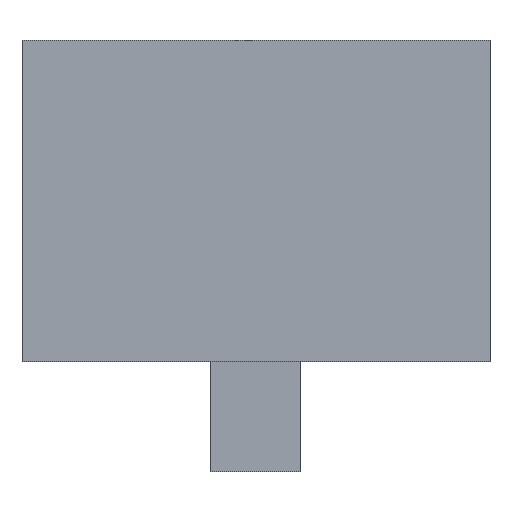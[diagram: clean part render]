
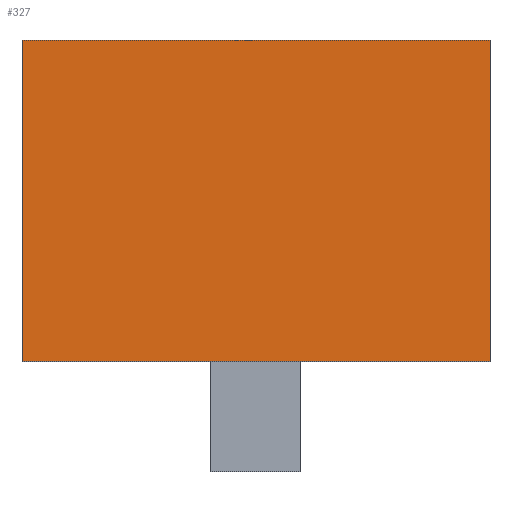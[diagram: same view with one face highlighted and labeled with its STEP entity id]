
A CAD part, top view. The second image highlights one B-rep face of the part: STEP entity #327.
In plain terms, the highlighted planar face has unit normal (0, 0, 1).
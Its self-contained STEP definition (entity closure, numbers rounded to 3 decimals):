
#24 = VERTEX_POINT('',#25);
#25 = CARTESIAN_POINT('',(-32.5,-22.3,20.1));
#32 = PLANE('',#33);
#33 = AXIS2_PLACEMENT_3D('',#34,#35,#36);
#34 = CARTESIAN_POINT('',(-32.5,-22.3,-20.1));
#35 = DIRECTION('',(1.,0.,0.));
#36 = DIRECTION('',(0.,0.,1.));
#44 = PLANE('',#45);
#45 = AXIS2_PLACEMENT_3D('',#46,#47,#48);
#46 = CARTESIAN_POINT('',(-32.5,-22.3,-20.1));
#47 = DIRECTION('',(0.,1.,0.));
#48 = DIRECTION('',(0.,0.,1.));
#85 = VERTEX_POINT('',#86);
#86 = CARTESIAN_POINT('',(-32.5,22.3,20.1));
#100 = PLANE('',#101);
#101 = AXIS2_PLACEMENT_3D('',#102,#103,#104);
#102 = CARTESIAN_POINT('',(-32.5,22.3,-20.1));
#103 = DIRECTION('',(0.,1.,0.));
#104 = DIRECTION('',(0.,0.,1.));
#112 = EDGE_CURVE('',#24,#85,#113,.T.);
#113 = SURFACE_CURVE('',#114,(#118,#125),.PCURVE_S1.);
#114 = LINE('',#115,#116);
#115 = CARTESIAN_POINT('',(-32.5,-22.3,20.1));
#116 = VECTOR('',#117,1.);
#117 = DIRECTION('',(0.,1.,0.));
#118 = PCURVE('',#32,#119);
#119 = DEFINITIONAL_REPRESENTATION('',(#120),#124);
#120 = LINE('',#121,#122);
#121 = CARTESIAN_POINT('',(40.2,0.));
#122 = VECTOR('',#123,1.);
#123 = DIRECTION('',(0.,-1.));
#124 = ( GEOMETRIC_REPRESENTATION_CONTEXT(2) 
PARAMETRIC_REPRESENTATION_CONTEXT() REPRESENTATION_CONTEXT('2D SPACE',''
  ) );
#125 = PCURVE('',#126,#131);
#126 = PLANE('',#127);
#127 = AXIS2_PLACEMENT_3D('',#128,#129,#130);
#128 = CARTESIAN_POINT('',(-32.5,-22.3,20.1));
#129 = DIRECTION('',(0.,0.,1.));
#130 = DIRECTION('',(1.,0.,0.));
#131 = DEFINITIONAL_REPRESENTATION('',(#132),#136);
#132 = LINE('',#133,#134);
#133 = CARTESIAN_POINT('',(0.,0.));
#134 = VECTOR('',#135,1.);
#135 = DIRECTION('',(0.,1.));
#136 = ( GEOMETRIC_REPRESENTATION_CONTEXT(2) 
PARAMETRIC_REPRESENTATION_CONTEXT() REPRESENTATION_CONTEXT('2D SPACE',''
  ) );
#165 = EDGE_CURVE('',#24,#166,#168,.T.);
#166 = VERTEX_POINT('',#167);
#167 = CARTESIAN_POINT('',(32.5,-22.3,20.1));
#168 = SURFACE_CURVE('',#169,(#173,#180),.PCURVE_S1.);
#169 = LINE('',#170,#171);
#170 = CARTESIAN_POINT('',(-32.5,-22.3,20.1));
#171 = VECTOR('',#172,1.);
#172 = DIRECTION('',(1.,0.,0.));
#173 = PCURVE('',#44,#174);
#174 = DEFINITIONAL_REPRESENTATION('',(#175),#179);
#175 = LINE('',#176,#177);
#176 = CARTESIAN_POINT('',(40.2,0.));
#177 = VECTOR('',#178,1.);
#178 = DIRECTION('',(0.,1.));
#179 = ( GEOMETRIC_REPRESENTATION_CONTEXT(2) 
PARAMETRIC_REPRESENTATION_CONTEXT() REPRESENTATION_CONTEXT('2D SPACE',''
  ) );
#180 = PCURVE('',#126,#181);
#181 = DEFINITIONAL_REPRESENTATION('',(#182),#186);
#182 = LINE('',#183,#184);
#183 = CARTESIAN_POINT('',(0.,0.));
#184 = VECTOR('',#185,1.);
#185 = DIRECTION('',(1.,0.));
#186 = ( GEOMETRIC_REPRESENTATION_CONTEXT(2) 
PARAMETRIC_REPRESENTATION_CONTEXT() REPRESENTATION_CONTEXT('2D SPACE',''
  ) );
#202 = PLANE('',#203);
#203 = AXIS2_PLACEMENT_3D('',#204,#205,#206);
#204 = CARTESIAN_POINT('',(32.5,-22.3,-20.1));
#205 = DIRECTION('',(1.,0.,0.));
#206 = DIRECTION('',(0.,0.,1.));
#327 = ADVANCED_FACE('',(#328),#126,.T.);
#328 = FACE_BOUND('',#329,.T.);
#329 = EDGE_LOOP('',(#330,#331,#332,#355));
#330 = ORIENTED_EDGE('',*,*,#112,.F.);
#331 = ORIENTED_EDGE('',*,*,#165,.T.);
#332 = ORIENTED_EDGE('',*,*,#333,.T.);
#333 = EDGE_CURVE('',#166,#334,#336,.T.);
#334 = VERTEX_POINT('',#335);
#335 = CARTESIAN_POINT('',(32.5,22.3,20.1));
#336 = SURFACE_CURVE('',#337,(#341,#348),.PCURVE_S1.);
#337 = LINE('',#338,#339);
#338 = CARTESIAN_POINT('',(32.5,-22.3,20.1));
#339 = VECTOR('',#340,1.);
#340 = DIRECTION('',(0.,1.,0.));
#341 = PCURVE('',#126,#342);
#342 = DEFINITIONAL_REPRESENTATION('',(#343),#347);
#343 = LINE('',#344,#345);
#344 = CARTESIAN_POINT('',(65.,0.));
#345 = VECTOR('',#346,1.);
#346 = DIRECTION('',(0.,1.));
#347 = ( GEOMETRIC_REPRESENTATION_CONTEXT(2) 
PARAMETRIC_REPRESENTATION_CONTEXT() REPRESENTATION_CONTEXT('2D SPACE',''
  ) );
#348 = PCURVE('',#202,#349);
#349 = DEFINITIONAL_REPRESENTATION('',(#350),#354);
#350 = LINE('',#351,#352);
#351 = CARTESIAN_POINT('',(40.2,0.));
#352 = VECTOR('',#353,1.);
#353 = DIRECTION('',(0.,-1.));
#354 = ( GEOMETRIC_REPRESENTATION_CONTEXT(2) 
PARAMETRIC_REPRESENTATION_CONTEXT() REPRESENTATION_CONTEXT('2D SPACE',''
  ) );
#355 = ORIENTED_EDGE('',*,*,#356,.F.);
#356 = EDGE_CURVE('',#85,#334,#357,.T.);
#357 = SURFACE_CURVE('',#358,(#362,#369),.PCURVE_S1.);
#358 = LINE('',#359,#360);
#359 = CARTESIAN_POINT('',(-32.5,22.3,20.1));
#360 = VECTOR('',#361,1.);
#361 = DIRECTION('',(1.,0.,0.));
#362 = PCURVE('',#126,#363);
#363 = DEFINITIONAL_REPRESENTATION('',(#364),#368);
#364 = LINE('',#365,#366);
#365 = CARTESIAN_POINT('',(0.,44.6));
#366 = VECTOR('',#367,1.);
#367 = DIRECTION('',(1.,0.));
#368 = ( GEOMETRIC_REPRESENTATION_CONTEXT(2) 
PARAMETRIC_REPRESENTATION_CONTEXT() REPRESENTATION_CONTEXT('2D SPACE',''
  ) );
#369 = PCURVE('',#100,#370);
#370 = DEFINITIONAL_REPRESENTATION('',(#371),#375);
#371 = LINE('',#372,#373);
#372 = CARTESIAN_POINT('',(40.2,0.));
#373 = VECTOR('',#374,1.);
#374 = DIRECTION('',(0.,1.));
#375 = ( GEOMETRIC_REPRESENTATION_CONTEXT(2) 
PARAMETRIC_REPRESENTATION_CONTEXT() REPRESENTATION_CONTEXT('2D SPACE',''
  ) );
